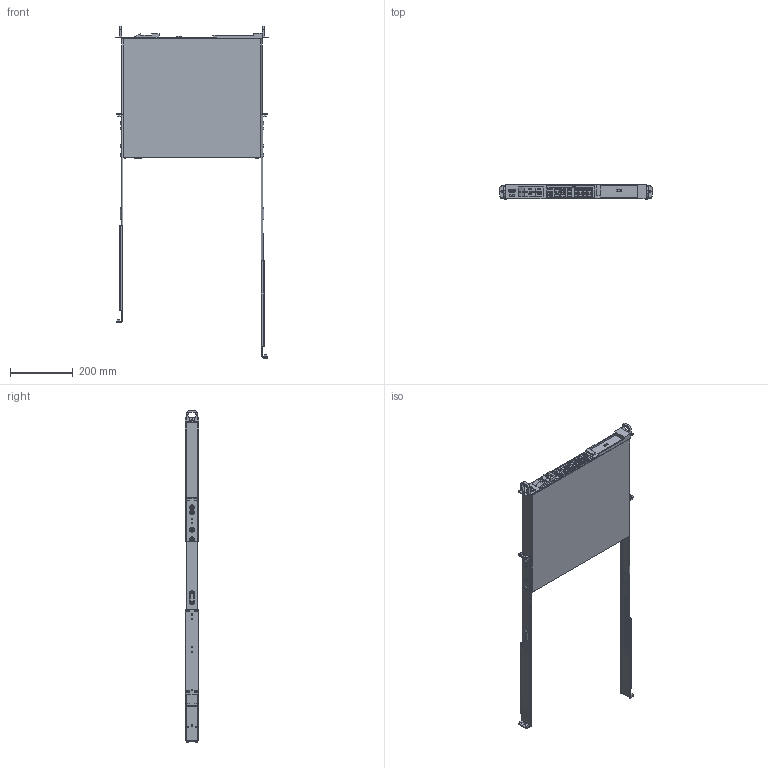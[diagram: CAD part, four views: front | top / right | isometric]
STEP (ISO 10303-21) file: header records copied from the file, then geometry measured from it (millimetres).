
FILE_DESCRIPTION (( 'STEP AP214' ), '1' );
FILE_NAME ('NUVBSE-xxS-R.STEP', '2025-04-14T13:56:37', ( '' ), ( '' ), 'SwSTEP 2.0', 'SolidWorks 2022', '' );
FILE_SCHEMA (( 'AUTOMOTIVE_DESIGN' ));
Length unit declared in the file: millimetre
Products named in the file (6): Sliding Rail - Assembly; NUVBSE-xxS-R; Sliding Rail - Rear; Sliding Rail - Front
Assembly tree (7 placements, depth 3):
  NUVBSE-xxS-R
    NUVBSE-xxS-R
    Sliding Rail - Assembly
      Sliding Rail - Front
      Sliding Rail - Rear
    Sliding Rail - Assembly
      Sliding Rail - Front
      Sliding Rail - Rear
Bounding box: 484 x 44 x 1056.2 mm (x, y, z)
Volume: 7693116.2 mm3; surface area: 711123.7 mm2
Topology: 7 solids, 7 shells, 3069 faces, 7997 edges, 5277 vertices
Faces by surface type: plane 2269, bspline 457, cylinder 309, cone 28, torus 4, sphere 2
Entity records: 131756 total; most frequent: CARTESIAN_POINT 38178, ORIENTED_EDGE 14736, DIRECTION 11681, EDGE_CURVE 7368, LINE 5981, VECTOR 5981, VERTEX_POINT 4879, EDGE_LOOP 3213
